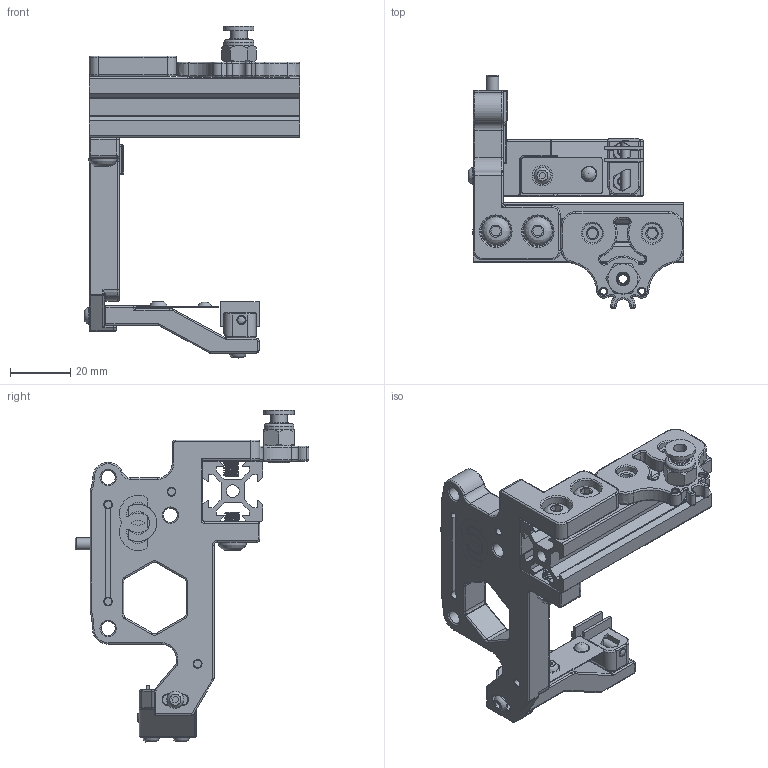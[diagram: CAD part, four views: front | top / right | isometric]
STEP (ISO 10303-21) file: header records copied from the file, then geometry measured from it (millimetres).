
FILE_DESCRIPTION(/* description */ (''),/* implementation_level */ '2;1');
FILE_NAME(/* name */ 'Dock v33.step',/* time_stamp */ '2024-09-26T00:57:59+07:00',/* author */ (''),/* organization */ (''),/* preprocessor_version */ 'ST-DEVELOPER v20',/* originating_system */ 'Autodesk Translation Framework v13.20.0.188',/* authorisation */ '');
FILE_SCHEMA (('AUTOMOTIVE_DESIGN { 1 0 10303 214 3 1 1 }'));
Products named in the file (34): Dock; Hardware (1); 8 x 5mm magnet; m4 x 15mm dowel pin; 8 x 5mm magnet (1); 8 x 5mm magnet (2); m5 x 10mm bhcs; m5 x 8mm bhcs; m3 hex nut (3); m3 hex nut; m3 washer; m3 x 10mm bhcs; m3 brass insert; AA battery terminal; m5 x 8mm bhcs (1); m3 x 6mm bhcs (1); 8 x 5mm magnet (3); spring OD6 ID5 15mm; m3 hex nut (1); m3 x 8mm bhcs; m3 x 8mm bhcs (1); m3 x 16mm dowel pin; Nozzle Blocker Mount; Dock Body (2); PC4-M10 pneumatic coupling v1; 2020 Extrusion; Umbilical Extrusion Mount; Pin Stopper; Spring Cover (1); Silicon Holder; Silicon Wall (1); Silicon Wall (3); Silicon Wall (2); Lineux Logo v5
Assembly tree (33 placements, depth 3):
  Dock
    Hardware (1)
      8 x 5mm magnet
      m4 x 15mm dowel pin
      8 x 5mm magnet (1)
      8 x 5mm magnet (2)
      m5 x 10mm bhcs
      m5 x 8mm bhcs
      m3 hex nut (3)
      m3 hex nut
      m3 washer
      m3 x 10mm bhcs
      m3 brass insert
      AA battery terminal
      m5 x 8mm bhcs (1)
      m3 x 6mm bhcs (1)
      8 x 5mm magnet (3)
      spring OD6 ID5 15mm
      m3 hex nut (1)
      m3 x 8mm bhcs
      m3 x 8mm bhcs (1)
      m3 x 16mm dowel pin
    Nozzle Blocker Mount
    Dock Body (2)
    PC4-M10 pneumatic coupling v1
    2020 Extrusion
    Umbilical Extrusion Mount
    Pin Stopper
    Spring Cover (1)
    Silicon Holder
    Silicon Wall (1)
      Silicon Wall (3)
      Silicon Wall (2)
    Lineux Logo v5
Bounding box: 71.65 x 77.83 x 110.54 mm (x, y, z)
Volume: 49041.7 mm3; surface area: 38482.9 mm2
Topology: 34 solids, 34 shells, 1680 faces, 4291 edges, 2708 vertices
Faces by surface type: cylinder 707, plane 425, bspline 214, cone 164, torus 154, sphere 16
Full cylindrical faces by diameter (mm): 2 x2, 2.356 x64, 2.376 x10, 2.5 x19, 2.927 x60, 3 x5, 3.1 x6, 3.4 x7, 3.505 x1, 3.564 x1, 3.99 x10, 4 x1, 4.1 x1, 4.2 x1, 4.3 x1, 4.5 x3, 4.7 x4, 4.751 x1, 4.9 x1, 4.901 x19, 5.5 x6, 5.7 x4, 6.3 x2, 6.5 x2, 6.7 x1, 8 x4, 8.2 x3, 8.917 x4, 9.036 x3, 9.947 x1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
Entity records: 100106 total; most frequent: CARTESIAN_POINT 60085, ORIENTED_EDGE 8560, DIRECTION 7802, EDGE_CURVE 4280, AXIS2_PLACEMENT_3D 3072, VERTEX_POINT 2708, EDGE_LOOP 1802, FACE_OUTER_BOUND 1680
